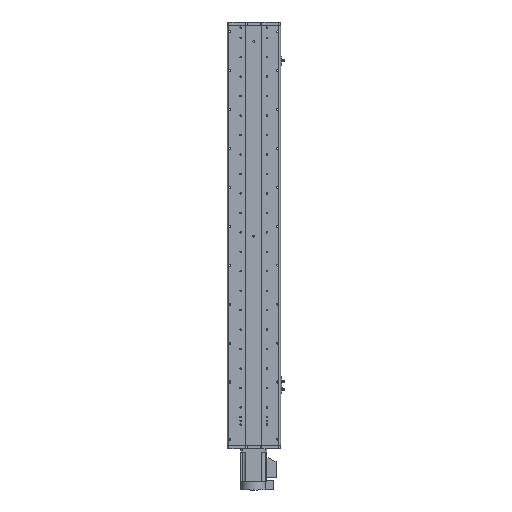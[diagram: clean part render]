
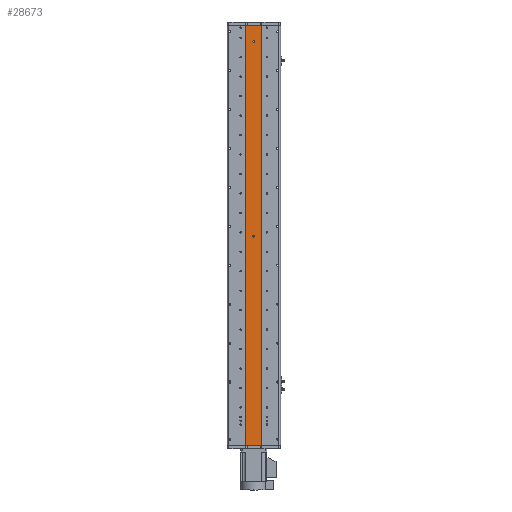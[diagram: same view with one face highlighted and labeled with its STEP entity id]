
A CAD part, front view. The second image highlights one B-rep face of the part: STEP entity #28673.
In plain terms, the highlighted planar face has unit normal (0, -1, 0).
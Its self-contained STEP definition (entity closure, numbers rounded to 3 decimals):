
#2423 = CARTESIAN_POINT ( 'NONE',  ( 0., 1., 598. ) ) ;
#2804 = AXIS2_PLACEMENT_3D ( 'NONE', #16864, #39266, #20029 ) ;
#2874 = VERTEX_POINT ( 'NONE', #7608 ) ;
#2892 = EDGE_CURVE ( 'NONE', #15358, #37790, #9194, .T. ) ;
#4499 = FACE_OUTER_BOUND ( 'NONE', #23253, .T. ) ;
#4556 = CARTESIAN_POINT ( 'NONE',  ( 25., 1., 648. ) ) ;
#5477 = EDGE_CURVE ( 'NONE', #41325, #40106, #32773, .T. ) ;
#5634 = DIRECTION ( 'NONE',  ( 0., 0., -1. ) ) ;
#7608 = CARTESIAN_POINT ( 'NONE',  ( 0., 1., 595. ) ) ;
#8118 = CARTESIAN_POINT ( 'NONE',  ( 0., 1., 1. ) ) ;
#9194 = LINE ( 'NONE', #20457, #33772 ) ;
#10014 = EDGE_LOOP ( 'NONE', ( #31096, #33588 ) ) ;
#10638 = CARTESIAN_POINT ( 'NONE',  ( 0., 1., -2. ) ) ;
#11421 = CARTESIAN_POINT ( 'NONE',  ( 0., 1., 601. ) ) ;
#11886 = CARTESIAN_POINT ( 'NONE',  ( 25., 1., 648. ) ) ;
#12273 = DIRECTION ( 'NONE',  ( 1., 0., 0. ) ) ;
#12532 = LINE ( 'NONE', #28012, #20018 ) ;
#12749 = AXIS2_PLACEMENT_3D ( 'NONE', #10638, #33083, #13898 ) ;
#12816 = CIRCLE ( 'NONE', #12749, 3. ) ;
#13421 = ORIENTED_EDGE ( 'NONE', *, *, #19789, .T. ) ;
#13898 = DIRECTION ( 'NONE',  ( 0., 0., -1. ) ) ;
#15358 = VERTEX_POINT ( 'NONE', #19934 ) ;
#16263 = DIRECTION ( 'NONE',  ( 0., 0., 1. ) ) ;
#16313 = CIRCLE ( 'NONE', #25463, 3. ) ;
#16864 = CARTESIAN_POINT ( 'NONE',  ( 0., 1., 598. ) ) ;
#17287 = DIRECTION ( 'NONE',  ( 0., 0., -1. ) ) ;
#17498 = CARTESIAN_POINT ( 'NONE',  ( 0., 1., -2. ) ) ;
#18011 = ORIENTED_EDGE ( 'NONE', *, *, #22289, .F. ) ;
#18088 = AXIS2_PLACEMENT_3D ( 'NONE', #32207, #35429, #16263 ) ;
#18704 = CARTESIAN_POINT ( 'NONE',  ( 25., 1., 648. ) ) ;
#19789 = EDGE_CURVE ( 'NONE', #37790, #40106, #12532, .T. ) ;
#19934 = CARTESIAN_POINT ( 'NONE',  ( -25., 1., 648. ) ) ;
#20018 = VECTOR ( 'NONE', #31242, 1000. ) ;
#20029 = DIRECTION ( 'NONE',  ( 0., 0., -1. ) ) ;
#20457 = CARTESIAN_POINT ( 'NONE',  ( -25., 1., 648. ) ) ;
#20619 = DIRECTION ( 'NONE',  ( 0., 0., -1. ) ) ;
#20666 = DIRECTION ( 'NONE',  ( 0., 0., -1. ) ) ;
#20872 = CARTESIAN_POINT ( 'NONE',  ( 0., 1., -5. ) ) ;
#21349 = CARTESIAN_POINT ( 'NONE',  ( -25., 1., -648. ) ) ;
#21504 = CARTESIAN_POINT ( 'NONE',  ( 25., 1., -648. ) ) ;
#21721 = ORIENTED_EDGE ( 'NONE', *, *, #27445, .F. ) ;
#22289 = EDGE_CURVE ( 'NONE', #31022, #26218, #12816, .T. ) ;
#22524 = PLANE ( 'NONE',  #18088 ) ;
#23195 = EDGE_LOOP ( 'NONE', ( #18011, #21721 ) ) ;
#23253 = EDGE_LOOP ( 'NONE', ( #13421, #25766, #37032, #37026 ) ) ;
#24236 = VECTOR ( 'NONE', #20619, 1000. ) ;
#24782 = DIRECTION ( 'NONE',  ( 0., -1., 0. ) ) ;
#25463 = AXIS2_PLACEMENT_3D ( 'NONE', #2423, #24782, #5634 ) ;
#25766 = ORIENTED_EDGE ( 'NONE', *, *, #5477, .F. ) ;
#26218 = VERTEX_POINT ( 'NONE', #8118 ) ;
#27445 = EDGE_CURVE ( 'NONE', #26218, #31022, #30506, .T. ) ;
#28012 = CARTESIAN_POINT ( 'NONE',  ( 25., 1., -648. ) ) ;
#28673 = ADVANCED_FACE ( 'NONE', ( #29015, #37576, #4499 ), #22524, .F. ) ;
#29015 = FACE_BOUND ( 'NONE', #10014, .T. ) ;
#30506 = CIRCLE ( 'NONE', #32263, 3. ) ;
#30725 = LINE ( 'NONE', #18704, #38291 ) ;
#31022 = VERTEX_POINT ( 'NONE', #20872 ) ;
#31096 = ORIENTED_EDGE ( 'NONE', *, *, #35132, .F. ) ;
#31242 = DIRECTION ( 'NONE',  ( 1., 0., 0. ) ) ;
#31468 = EDGE_CURVE ( 'NONE', #35961, #2874, #16313, .T. ) ;
#32096 = EDGE_CURVE ( 'NONE', #15358, #41325, #30725, .T. ) ;
#32207 = CARTESIAN_POINT ( 'NONE',  ( 25., 1., 648. ) ) ;
#32259 = CIRCLE ( 'NONE', #2804, 3. ) ;
#32263 = AXIS2_PLACEMENT_3D ( 'NONE', #17498, #39904, #20666 ) ;
#32773 = LINE ( 'NONE', #4556, #24236 ) ;
#33083 = DIRECTION ( 'NONE',  ( 0., -1., 0. ) ) ;
#33588 = ORIENTED_EDGE ( 'NONE', *, *, #31468, .F. ) ;
#33772 = VECTOR ( 'NONE', #17287, 1000. ) ;
#35132 = EDGE_CURVE ( 'NONE', #2874, #35961, #32259, .T. ) ;
#35429 = DIRECTION ( 'NONE',  ( 0., 1., 0. ) ) ;
#35961 = VERTEX_POINT ( 'NONE', #11421 ) ;
#37026 = ORIENTED_EDGE ( 'NONE', *, *, #2892, .T. ) ;
#37032 = ORIENTED_EDGE ( 'NONE', *, *, #32096, .F. ) ;
#37576 = FACE_BOUND ( 'NONE', #23195, .T. ) ;
#37790 = VERTEX_POINT ( 'NONE', #21349 ) ;
#38291 = VECTOR ( 'NONE', #12273, 1000. ) ;
#39266 = DIRECTION ( 'NONE',  ( 0., -1., 0. ) ) ;
#39904 = DIRECTION ( 'NONE',  ( 0., -1., 0. ) ) ;
#40106 = VERTEX_POINT ( 'NONE', #21504 ) ;
#41325 = VERTEX_POINT ( 'NONE', #11886 ) ;
